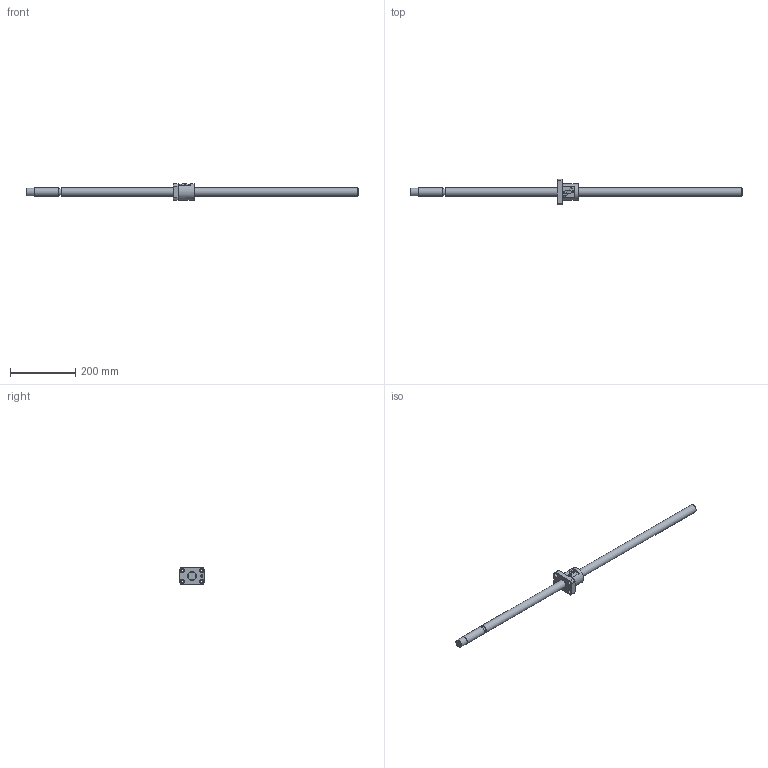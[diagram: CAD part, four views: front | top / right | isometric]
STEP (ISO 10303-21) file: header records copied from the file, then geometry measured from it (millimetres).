
FILE_DESCRIPTION((''),'2;1');
FILE_NAME('D:\製品 (図面)\カタログ用3D\ネジ関連\STEP形式\KBS(C)\KBS(C)2510-1020.stp','2010-06-02T14:20:07',('Tsuchiya'),(''),'Autodesk Inventor 10','Autodesk Inventor 10','');
FILE_SCHEMA(('AUTOMOTIVE_DESIGN { 1 0 10303 214 1 1 1 1 }'));
Length unit declared in the file: millimetre
Products named in the file (3): KBS(C)2510-1020; KBS(C)2510-10201; KBS(C)2510-10202
Assembly tree (2 placements, depth 2):
  KBS(C)2510-1020
    KBS(C)2510-10201
    KBS(C)2510-10202
Bounding box: 1020 x 78 x 52 mm (x, y, z)
Volume: 620169.6 mm3; surface area: 108117.2 mm2
Topology: 2 solids, 2 shells, 104 faces, 261 edges, 171 vertices
Faces by surface type: plane 42, cylinder 35, bspline 20, cone 5, torus 2
Full cylindrical faces by diameter (mm): 4.8 x1, 6 x1, 7.4 x1, 9 x4, 14 x4, 21 x1, 24.5 x1, 25 x3, 27 x2, 52 x1
Entity records: 3327 total; most frequent: CARTESIAN_POINT 939, DIRECTION 452, ORIENTED_EDGE 450, EDGE_CURVE 225, AXIS2_PLACEMENT_3D 170, VERTEX_POINT 165, EDGE_LOOP 160, VECTOR 112
